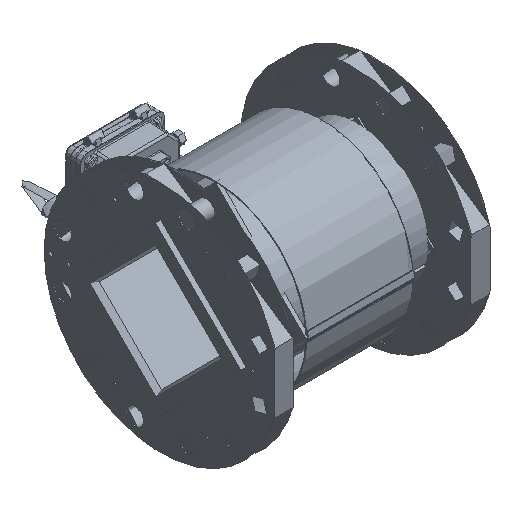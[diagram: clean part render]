
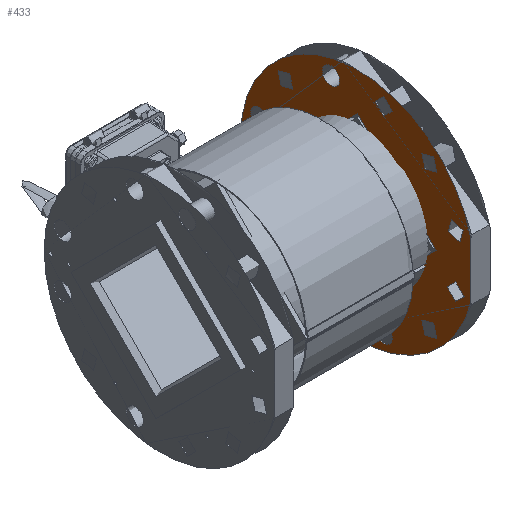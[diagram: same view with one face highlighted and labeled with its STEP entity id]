
A CAD part, isometric view. The second image highlights one B-rep face of the part: STEP entity #433.
In plain terms, the highlighted planar face has unit normal (-1, 0, 0).
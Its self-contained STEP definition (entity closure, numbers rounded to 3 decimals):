
#433=ADVANCED_FACE('',(#16272,#16274,#16276,#16278,#16280,#16282,#16284,#16286,#16288,
#16290,#16292,#16294,#16296,#16298,#16300),#16302,.T.);
#16272=FACE_BOUND('',#16273,.T.);
#16273=EDGE_LOOP('',(#38848,#38849));
#16274=FACE_BOUND('',#16275,.T.);
#16275=EDGE_LOOP('',(#38850));
#16276=FACE_BOUND('',#16277,.T.);
#16277=EDGE_LOOP('',(#38851));
#16278=FACE_BOUND('',#16279,.T.);
#16279=EDGE_LOOP('',(#38852));
#16280=FACE_BOUND('',#16281,.T.);
#16281=EDGE_LOOP('',(#38853));
#16282=FACE_BOUND('',#16283,.T.);
#16283=EDGE_LOOP('',(#38854));
#16284=FACE_BOUND('',#16285,.T.);
#16285=EDGE_LOOP('',(#38855));
#16286=FACE_BOUND('',#16287,.T.);
#16287=EDGE_LOOP('',(#38856));
#16288=FACE_BOUND('',#16289,.T.);
#16289=EDGE_LOOP('',(#38857));
#16290=FACE_BOUND('',#16291,.T.);
#16291=EDGE_LOOP('',(#38858));
#16292=FACE_BOUND('',#16293,.T.);
#16293=EDGE_LOOP('',(#38859));
#16294=FACE_BOUND('',#16295,.T.);
#16295=EDGE_LOOP('',(#38860));
#16296=FACE_BOUND('',#16297,.T.);
#16297=EDGE_LOOP('',(#38861));
#16298=FACE_BOUND('',#16299,.T.);
#16299=EDGE_LOOP('',(#38862));
#16300=FACE_BOUND('',#16301,.T.);
#16301=EDGE_LOOP('',(#38863));
#16302=PLANE('',#16303);
#16303=AXIS2_PLACEMENT_3D('',#16304,#16305,#16306);
#16304=CARTESIAN_POINT('',(135.,-113.165,0.));
#16305=DIRECTION('',(-1.,0.,0.));
#16306=DIRECTION('',(0.,1.,0.));
#38848=ORIENTED_EDGE('',*,*,#51972,.T.);
#38849=ORIENTED_EDGE('',*,*,#51973,.F.);
#38850=ORIENTED_EDGE('',*,*,#51974,.T.);
#38851=ORIENTED_EDGE('',*,*,#51975,.T.);
#38852=ORIENTED_EDGE('',*,*,#51970,.T.);
#38853=ORIENTED_EDGE('',*,*,#51976,.T.);
#38854=ORIENTED_EDGE('',*,*,#51977,.T.);
#38855=ORIENTED_EDGE('',*,*,#51978,.T.);
#38856=ORIENTED_EDGE('',*,*,#51979,.T.);
#38857=ORIENTED_EDGE('',*,*,#51980,.T.);
#38858=ORIENTED_EDGE('',*,*,#51981,.T.);
#38859=ORIENTED_EDGE('',*,*,#51982,.T.);
#38860=ORIENTED_EDGE('',*,*,#51983,.T.);
#38861=ORIENTED_EDGE('',*,*,#51984,.T.);
#38862=ORIENTED_EDGE('',*,*,#51985,.T.);
#38863=ORIENTED_EDGE('',*,*,#51986,.T.);
#51970=EDGE_CURVE('',#54566,#54566,#54567,.T.);
#51972=EDGE_CURVE('',#54570,#54571,#54572,.F.);
#51973=EDGE_CURVE('',#54570,#54571,#54573,.T.);
#51974=EDGE_CURVE('',#54574,#54574,#54575,.T.);
#51975=EDGE_CURVE('',#54576,#54576,#54577,.T.);
#51976=EDGE_CURVE('',#54578,#54578,#54579,.T.);
#51977=EDGE_CURVE('',#54580,#54580,#54581,.T.);
#51978=EDGE_CURVE('',#54582,#54582,#54583,.T.);
#51979=EDGE_CURVE('',#54584,#54584,#54585,.T.);
#51980=EDGE_CURVE('',#54586,#54586,#54587,.T.);
#51981=EDGE_CURVE('',#54588,#54588,#54589,.T.);
#51982=EDGE_CURVE('',#54590,#54590,#54591,.T.);
#51983=EDGE_CURVE('',#54592,#54592,#54593,.T.);
#51984=EDGE_CURVE('',#54594,#54594,#54595,.T.);
#51985=EDGE_CURVE('',#54596,#54596,#54597,.T.);
#51986=EDGE_CURVE('',#54598,#54598,#54599,.T.);
#54566=VERTEX_POINT('',#59177);
#54567=CIRCLE('',#59178,120.);
#54570=VERTEX_POINT('',#59187);
#54571=VERTEX_POINT('',#59188);
#54572=LINE('',#59189,#59190);
#54573=CIRCLE('',#59192,178.);
#54574=VERTEX_POINT('',#59196);
#54575=CIRCLE('',#59197,3.15);
#54576=VERTEX_POINT('',#59201);
#54577=CIRCLE('',#59202,13.);
#54578=VERTEX_POINT('',#59206);
#54579=CIRCLE('',#59207,13.);
#54580=VERTEX_POINT('',#59211);
#54581=CIRCLE('',#59212,13.);
#54582=VERTEX_POINT('',#59216);
#54583=CIRCLE('',#59217,13.);
#54584=VERTEX_POINT('',#59221);
#54585=CIRCLE('',#59222,13.);
#54586=VERTEX_POINT('',#59226);
#54587=CIRCLE('',#59227,13.);
#54588=VERTEX_POINT('',#59231);
#54589=CIRCLE('',#59232,13.);
#54590=VERTEX_POINT('',#59236);
#54591=CIRCLE('',#59237,13.);
#54592=VERTEX_POINT('',#59241);
#54593=CIRCLE('',#59242,13.);
#54594=VERTEX_POINT('',#59246);
#54595=CIRCLE('',#59247,13.);
#54596=VERTEX_POINT('',#59251);
#54597=CIRCLE('',#59252,13.);
#54598=VERTEX_POINT('',#59256);
#54599=CIRCLE('',#59257,13.);
#59177=CARTESIAN_POINT('',(135.,6.835,0.));
#59178=AXIS2_PLACEMENT_3D('',#59179,#59180,#59181);
#59179=CARTESIAN_POINT('',(135.,-113.165,0.));
#59180=DIRECTION('',(1.,0.,0.));
#59181=DIRECTION('',(0.,1.,0.));
#59187=CARTESIAN_POINT('',(135.,-286.165,-41.893));
#59188=CARTESIAN_POINT('',(135.,-286.165,41.893));
#59189=CARTESIAN_POINT('',(135.,-286.165,41.893));
#59190=VECTOR('',#59191,1.);
#59191=DIRECTION('',(0.,0.,-1.));
#59192=AXIS2_PLACEMENT_3D('',#59193,#59194,#59195);
#59193=CARTESIAN_POINT('',(135.,-113.165,0.));
#59194=DIRECTION('',(1.,0.,0.));
#59195=DIRECTION('',(0.,-0.972,-0.235));
#59196=CARTESIAN_POINT('',(135.,54.835,3.15));
#59197=AXIS2_PLACEMENT_3D('',#59198,#59199,#59200);
#59198=CARTESIAN_POINT('',(135.,54.835,0.));
#59199=DIRECTION('',(1.,0.,0.));
#59200=DIRECTION('',(0.,0.,1.));
#59201=CARTESIAN_POINT('',(135.,36.553,53.117));
#59202=AXIS2_PLACEMENT_3D('',#59203,#59204,#59205);
#59203=CARTESIAN_POINT('',(135.,36.553,40.117));
#59204=DIRECTION('',(1.,0.,0.));
#59205=DIRECTION('',(0.,0.,1.));
#59206=CARTESIAN_POINT('',(135.,-10.063,120.86));
#59207=AXIS2_PLACEMENT_3D('',#59208,#59209,#59210);
#59208=CARTESIAN_POINT('',(135.,-3.563,109.602));
#59209=DIRECTION('',(1.,0.,0.));
#59210=DIRECTION('',(0.,-0.5,0.866));
#59211=CARTESIAN_POINT('',(135.,-84.306,156.219));
#59212=AXIS2_PLACEMENT_3D('',#59213,#59214,#59215);
#59213=CARTESIAN_POINT('',(135.,-73.048,149.719));
#59214=DIRECTION('',(1.,0.,0.));
#59215=DIRECTION('',(0.,-0.866,0.5));
#59216=CARTESIAN_POINT('',(135.,-166.282,149.719));
#59217=AXIS2_PLACEMENT_3D('',#59218,#59219,#59220);
#59218=CARTESIAN_POINT('',(135.,-153.282,149.719));
#59219=DIRECTION('',(1.,0.,0.));
#59220=DIRECTION('',(0.,-1.,0.));
#59221=CARTESIAN_POINT('',(135.,-234.025,103.102));
#59222=AXIS2_PLACEMENT_3D('',#59223,#59224,#59225);
#59223=CARTESIAN_POINT('',(135.,-222.767,109.602));
#59224=DIRECTION('',(1.,0.,0.));
#59225=DIRECTION('',(0.,-0.866,-0.5));
#59226=CARTESIAN_POINT('',(135.,-269.384,28.859));
#59227=AXIS2_PLACEMENT_3D('',#59228,#59229,#59230);
#59228=CARTESIAN_POINT('',(135.,-262.884,40.117));
#59229=DIRECTION('',(1.,0.,0.));
#59230=DIRECTION('',(0.,-0.5,-0.866));
#59231=CARTESIAN_POINT('',(135.,-262.884,-53.117));
#59232=AXIS2_PLACEMENT_3D('',#59233,#59234,#59235);
#59233=CARTESIAN_POINT('',(135.,-262.884,-40.117));
#59234=DIRECTION('',(1.,0.,0.));
#59235=DIRECTION('',(0.,0.,-1.));
#59236=CARTESIAN_POINT('',(135.,-216.267,-120.86));
#59237=AXIS2_PLACEMENT_3D('',#59238,#59239,#59240);
#59238=CARTESIAN_POINT('',(135.,-222.767,-109.602));
#59239=DIRECTION('',(1.,0.,0.));
#59240=DIRECTION('',(0.,0.5,-0.866));
#59241=CARTESIAN_POINT('',(135.,-142.024,-156.219));
#59242=AXIS2_PLACEMENT_3D('',#59243,#59244,#59245);
#59243=CARTESIAN_POINT('',(135.,-153.282,-149.719));
#59244=DIRECTION('',(1.,0.,0.));
#59245=DIRECTION('',(0.,0.866,-0.5));
#59246=CARTESIAN_POINT('',(135.,-60.048,-149.719));
#59247=AXIS2_PLACEMENT_3D('',#59248,#59249,#59250);
#59248=CARTESIAN_POINT('',(135.,-73.048,-149.719));
#59249=DIRECTION('',(1.,0.,0.));
#59250=DIRECTION('',(0.,1.,0.));
#59251=CARTESIAN_POINT('',(135.,7.695,-103.102));
#59252=AXIS2_PLACEMENT_3D('',#59253,#59254,#59255);
#59253=CARTESIAN_POINT('',(135.,-3.563,-109.602));
#59254=DIRECTION('',(1.,0.,0.));
#59255=DIRECTION('',(0.,0.866,0.5));
#59256=CARTESIAN_POINT('',(135.,43.053,-28.859));
#59257=AXIS2_PLACEMENT_3D('',#59258,#59259,#59260);
#59258=CARTESIAN_POINT('',(135.,36.553,-40.117));
#59259=DIRECTION('',(1.,0.,0.));
#59260=DIRECTION('',(0.,0.5,0.866));
